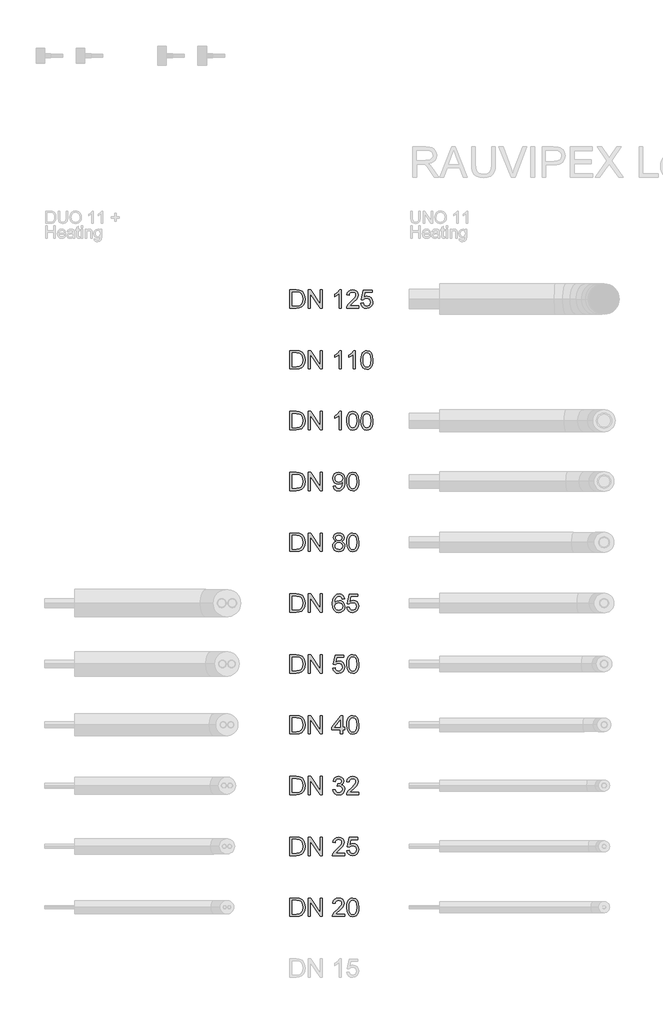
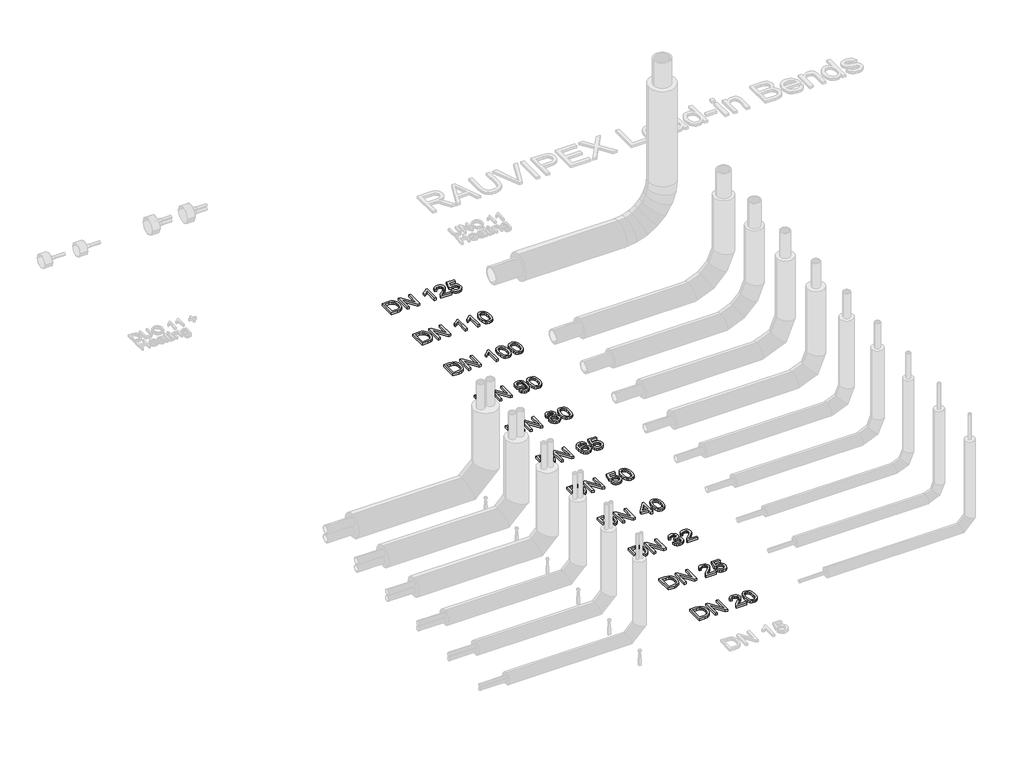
# One storey, part 39 of 44: 11 proxies.
"""IFC4 building model written with IfcOpenShell, lengths in millimetres."""

from ifc_helpers import new_model, si_unit, origin, origin_with_axes, place, context, project, spatial, polyline, outline, extrude, element, save

model = new_model("IFC4")

# Units and contexts
model_context = context("Model", 3, world=origin())
ifc_project = project(units=[si_unit("LENGTHUNIT", "METRE", prefix="MILLI")], contexts=[model_context])

# Site, building, storey
site = spatial("IfcSite", under=ifc_project)
building = spatial("IfcBuilding", under=site)
storey = spatial("IfcBuildingStorey", under=building, Name="REHAU Starting view", Elevation=0.0)

# Proxies
placement = place(None, origin())
element("IfcBuildingElementProxy", 1, Name="150", ObjectType="150", at=placement, inside=storey, context=model_context, shape_type="SweptSolid", body=[
    extrude(outline(polyline([(33016.4811134, 425.0), (33016.4811134, 575.6844652), (33068.4628393, 575.6844652), (33095.3550131, 573.5139615), (33117.5015093, 562.735019), (33127.9217668, 551.2571007), (33135.343786, 536.9832793), (33139.7859611, 520.1894663), (33141.2666861, 501.151573), (33137.2567724, 470.7461261), (33126.9560765, 448.8019651), (33113.1972899, 435.135149), (33095.1894663, 427.575174), (33070.9644369, 425.0), (33016.4811134, 425.0)]), holes=[polyline([(33035.3166715, 443.8355582), (33068.6467803, 443.8355582), (33092.8902038, 446.5578849), (33106.8697196, 454.2466186), (33118.3292437, 472.9534181), (33122.431128, 501.4458786), (33120.4215726, 521.9736939), (33114.3929064, 537.1304321), (33105.4855636, 547.5414926), (33094.8399784, 553.8322747), (33068.1317455, 556.8489071), (33035.3166715, 556.8489071), (33035.3166715, 443.8355582)])]), origin_with_axes(), (0.0, 0.0, 1.0), 20.0),
    extrude(outline(polyline([(33167.1655786, 425.0), (33167.1655786, 575.6844652), (33187.3255119, 575.6844652), (33266.0522589, 456.3067578), (33266.0522589, 575.6844652), (33284.8878171, 575.6844652), (33284.8878171, 425.0), (33264.7278837, 425.0), (33186.0011368, 544.4144956), (33186.0011368, 425.0), (33167.1655786, 425.0)])), origin_with_axes(), (0.0, 0.0, 1.0), 20.0),
    extrude(outline(polyline([(33466.1800643, 443.8355582), (33466.1800643, 425.0), (33367.293384, 425.0), (33369.316735, 437.9862344), (33380.757865, 457.9806209), (33404.3391009, 479.8144173), (33436.8598693, 511.1947515), (33442.9575133, 522.0104821), (33444.9900614, 532.5319072), (33443.0724765, 541.9634818), (33437.3197218, 549.8039669), (33428.4767583, 555.087672), (33417.2885471, 556.8489071), (33405.5393159, 555.1290587), (33396.4112439, 549.9695138), (33390.5205335, 541.7749423), (33388.4833869, 530.9500146), (33369.6478288, 533.3044594), (33374.214164, 551.5238152), (33384.0871971, 564.8319464), (33398.7518931, 572.9713355), (33417.6932173, 575.6844652), (33436.7724973, 572.6678329), (33451.4096022, 563.6179358), (33460.7216152, 550.0982725), (33463.8256195, 533.6723414), (33460.4778934, 515.8116705), (33449.349463, 497.3439944), (33422.3653187, 471.5370724), (33400.6970691, 453.4188841), (33392.1989951, 443.8355582), (33466.1800643, 443.8355582)])), origin_with_axes(), (0.0, 0.0, 1.0), 20.0),
    extrude(outline(polyline([(33485.0156224, 499.128222), (33486.3997784, 523.2474853), (33490.5522465, 542.4831152), (33497.4316398, 557.1294171), (33506.9965717, 567.4806967), (33519.31602, 573.6335231), (33534.4589626, 575.6844652), (33556.4583059, 570.8284229), (33571.6518323, 556.830513), (33580.4810002, 534.5368641), (33583.9023027, 499.128222), (33582.5319423, 475.1469145), (33578.420861, 455.9572699), (33571.5828544, 441.2971724), (33562.0317181, 430.904506), (33549.6846787, 424.7102929), (33534.4589626, 422.6455552), (33514.8876404, 426.2324047), (33500.0252078, 436.992953), (33488.7680188, 462.4779783), (33485.0156224, 499.128222)]), holes=[polyline([(33503.8511806, 499.1650102), (33506.0584726, 469.536714), (33512.6803485, 452.3888145), (33522.5395859, 444.2080387), (33534.4589626, 441.4811134), (33546.3783392, 444.2172357), (33556.2375767, 452.4256027), (33562.8594526, 469.5826993), (33565.0667446, 499.1650102), (33562.933029, 528.1265203), (33556.5318823, 545.407777), (33546.6910389, 553.9886246), (33534.2382334, 556.8489071), (33522.4476155, 554.3289154), (33512.9746541, 546.7689404), (33506.132049, 528.4116288), (33503.8511806, 499.1650102)])]), origin_with_axes(), (0.0, 0.0, 1.0), 20.0),
])
element("IfcBuildingElementProxy", 2, Name="150", ObjectType="150", at=placement, inside=storey, context=model_context, shape_type="SweptSolid", body=[
    extrude(outline(polyline([(33016.4811134, 925.0), (33016.4811134, 1075.6844652), (33068.4628393, 1075.6844652), (33095.3550131, 1073.5139615), (33117.5015093, 1062.735019), (33127.9217668, 1051.2571007), (33135.343786, 1036.9832793), (33139.7859611, 1020.1894663), (33141.2666861, 1001.151573), (33137.2567724, 970.7461261), (33126.9560765, 948.8019651), (33113.1972899, 935.135149), (33095.1894663, 927.575174), (33070.9644369, 925.0), (33016.4811134, 925.0)]), holes=[polyline([(33035.3166715, 943.8355582), (33068.6467803, 943.8355582), (33092.8902038, 946.5578849), (33106.8697196, 954.2466186), (33118.3292437, 972.9534181), (33122.431128, 1001.4458786), (33120.4215726, 1021.9736939), (33114.3929064, 1037.1304321), (33105.4855636, 1047.5414926), (33094.8399784, 1053.8322747), (33068.1317455, 1056.8489071), (33035.3166715, 1056.8489071), (33035.3166715, 943.8355582)])]), origin_with_axes(), (0.0, 0.0, 1.0), 20.0),
    extrude(outline(polyline([(33167.1655786, 925.0), (33167.1655786, 1075.6844652), (33187.3255119, 1075.6844652), (33266.0522589, 956.3067578), (33266.0522589, 1075.6844652), (33284.8878171, 1075.6844652), (33284.8878171, 925.0), (33264.7278837, 925.0), (33186.0011368, 1044.4144956), (33186.0011368, 925.0), (33167.1655786, 925.0)])), origin_with_axes(), (0.0, 0.0, 1.0), 20.0),
    extrude(outline(polyline([(33466.1800643, 943.8355582), (33466.1800643, 925.0), (33367.293384, 925.0), (33369.316735, 937.9862344), (33380.757865, 957.9806209), (33404.3391009, 979.8144173), (33436.8598693, 1011.1947515), (33442.9575133, 1022.0104821), (33444.9900614, 1032.5319072), (33443.0724765, 1041.9634818), (33437.3197218, 1049.8039669), (33428.4767583, 1055.087672), (33417.2885471, 1056.8489071), (33405.5393159, 1055.1290587), (33396.4112439, 1049.9695138), (33390.5205335, 1041.7749423), (33388.4833869, 1030.9500146), (33369.6478288, 1033.3044594), (33374.214164, 1051.5238152), (33384.0871971, 1064.8319464), (33398.7518931, 1072.9713355), (33417.6932173, 1075.6844652), (33436.7724973, 1072.6678329), (33451.4096022, 1063.6179358), (33460.7216152, 1050.0982725), (33463.8256195, 1033.6723414), (33460.4778934, 1015.8116705), (33449.349463, 997.3439944), (33422.3653187, 971.5370724), (33400.6970691, 953.4188841), (33392.1989951, 943.8355582), (33466.1800643, 943.8355582)])), origin_with_axes(), (0.0, 0.0, 1.0), 20.0),
    extrude(outline(polyline([(33485.0156224, 965.0255611), (33503.8511806, 967.3800058), (33507.3092713, 956.072233), (33513.3425361, 947.9742306), (33521.9233836, 943.1043927), (33533.0242228, 941.4811134), (33546.525492, 943.7389891), (33556.6422469, 950.5126164), (33562.9606202, 961.0202459), (33565.0667446, 974.4801284), (33563.0939774, 987.1536631), (33557.1756758, 996.8473537), (33547.2658545, 1003.00018), (33533.3185284, 1005.0511222), (33516.7822327, 1001.7769724), (33506.2056254, 993.2788983), (33487.3700672, 995.6333431), (33503.8511806, 1073.3300205), (33576.8389684, 1073.3300205), (33576.8389684, 1054.4944623), (33519.0814952, 1054.4944623), (33511.0248795, 1012.9973732), (33524.4801635, 1021.1643535), (33538.5792409, 1023.8866803), (33556.1777959, 1020.511363), (33570.7873096, 1010.3854111), (33580.6235545, 994.9527614), (33583.9023027, 975.6573507), (33580.9500497, 956.8217926), (33572.0932907, 940.7085612), (33555.1339307, 927.1613067), (33532.9506464, 922.6455552), (33514.4507806, 925.5472245), (33499.7125081, 934.2522322), (33489.6095489, 947.7489029), (33485.0156224, 965.0255611)])), origin_with_axes(), (0.0, 0.0, 1.0), 20.0),
])
element("IfcBuildingElementProxy", 3, Name="150", ObjectType="150", at=placement, inside=storey, context=model_context, shape_type="SweptSolid", body=[
    extrude(outline(polyline([(33016.4811134, 1425.0), (33016.4811134, 1575.6844652), (33068.4628393, 1575.6844652), (33095.3550131, 1573.5139615), (33117.5015093, 1562.735019), (33127.9217668, 1551.2571007), (33135.343786, 1536.9832793), (33139.7859611, 1520.1894663), (33141.2666861, 1501.151573), (33137.2567724, 1470.7461261), (33126.9560765, 1448.8019651), (33113.1972899, 1435.135149), (33095.1894663, 1427.575174), (33070.9644369, 1425.0), (33016.4811134, 1425.0)]), holes=[polyline([(33035.3166715, 1443.8355582), (33068.6467803, 1443.8355582), (33092.8902038, 1446.5578849), (33106.8697196, 1454.2466186), (33118.3292437, 1472.9534181), (33122.431128, 1501.4458786), (33120.4215726, 1521.9736939), (33114.3929064, 1537.1304321), (33105.4855636, 1547.5414926), (33094.8399784, 1553.8322747), (33068.1317455, 1556.8489071), (33035.3166715, 1556.8489071), (33035.3166715, 1443.8355582)])]), origin_with_axes(), (0.0, 0.0, 1.0), 20.0),
    extrude(outline(polyline([(33167.1655786, 1425.0), (33167.1655786, 1575.6844652), (33187.3255119, 1575.6844652), (33266.0522589, 1456.3067578), (33266.0522589, 1575.6844652), (33284.8878171, 1575.6844652), (33284.8878171, 1425.0), (33264.7278837, 1425.0), (33186.0011368, 1544.4144956), (33186.0011368, 1425.0), (33167.1655786, 1425.0)])), origin_with_axes(), (0.0, 0.0, 1.0), 20.0),
    extrude(outline(polyline([(33369.6478288, 1465.0255611), (33388.4833869, 1467.3800058), (33392.7002343, 1455.5434026), (33398.8760533, 1447.5511663), (33407.3143465, 1442.9986266), (33418.3186167, 1441.4811134), (33431.2312747, 1443.5688437), (33441.2008768, 1449.8320347), (33447.5744324, 1459.1762374), (33449.6989509, 1470.5070028), (33447.5928265, 1481.2629526), (33441.2744532, 1489.9863544), (33431.7095213, 1495.7667003), (33419.8637211, 1497.6934822), (33406.6567575, 1495.6333431), (33408.7536848, 1514.4689012), (33411.7703172, 1514.248172), (33433.1442611, 1519.6560374), (33440.2627777, 1526.5170366), (33442.6356166, 1536.2843035), (33440.9157683, 1544.4190942), (33435.7562233, 1551.0179774), (33427.8835486, 1555.3911747), (33418.0243111, 1556.8489071), (33408.1466795, 1555.3773791), (33400.0716698, 1550.9627951), (33394.1763608, 1543.6051552), (33390.8378317, 1533.3044594), (33372.0022735, 1535.6589041), (33377.5480946, 1552.5722789), (33387.4165291, 1565.1998284), (33400.9177983, 1573.063306), (33417.3621235, 1575.6844652), (33440.0788367, 1570.5157232), (33455.9713389, 1556.3890546), (33461.4711747, 1537.3879495), (33456.2472504, 1520.0239194), (33440.7962066, 1507.5527197), (33452.5868246, 1502.7886479), (33461.324022, 1494.6768499), (33466.7318873, 1483.6587841), (33468.5345091, 1470.175909), (33464.9292655, 1451.8185974), (33454.1135348, 1436.4779182), (33437.7887713, 1426.103646), (33417.6564291, 1422.6455552), (33399.4462704, 1425.5978082), (33384.620626, 1434.4545673), (33374.310733, 1448.0018217), (33369.6478288, 1465.0255611)])), origin_with_axes(), (0.0, 0.0, 1.0), 20.0),
    extrude(outline(polyline([(33581.547858, 1443.8355582), (33581.547858, 1425.0), (33482.6611777, 1425.0), (33484.6845286, 1437.9862344), (33496.1256587, 1457.9806209), (33519.7068946, 1479.8144173), (33552.227663, 1511.1947515), (33558.325307, 1522.0104821), (33560.3578551, 1532.5319072), (33558.4402702, 1541.9634818), (33552.6875155, 1549.8039669), (33543.844552, 1555.087672), (33532.6563408, 1556.8489071), (33520.9071096, 1555.1290587), (33511.7790376, 1549.9695138), (33505.8883271, 1541.7749423), (33503.8511806, 1530.9500146), (33485.0156224, 1533.3044594), (33489.5819577, 1551.5238152), (33499.4549908, 1564.8319464), (33514.1196868, 1572.9713355), (33533.061011, 1575.6844652), (33552.140291, 1572.6678329), (33566.7773959, 1563.6179358), (33576.0894089, 1550.0982725), (33579.1934132, 1533.6723414), (33575.8456871, 1515.8116705), (33564.7172567, 1497.3439944), (33537.7331123, 1471.5370724), (33516.0648628, 1453.4188841), (33507.5667887, 1443.8355582), (33581.547858, 1443.8355582)])), origin_with_axes(), (0.0, 0.0, 1.0), 20.0),
])
element("IfcBuildingElementProxy", 4, Name="150", ObjectType="150", at=placement, inside=storey, context=model_context, shape_type="SweptSolid", body=[
    extrude(outline(polyline([(33016.4811134, 1925.0), (33016.4811134, 2075.6844652), (33068.4628393, 2075.6844652), (33095.3550131, 2073.5139615), (33117.5015093, 2062.735019), (33127.9217668, 2051.2571007), (33135.343786, 2036.9832793), (33139.7859611, 2020.1894663), (33141.2666861, 2001.151573), (33137.2567724, 1970.7461261), (33126.9560765, 1948.8019651), (33113.1972899, 1935.135149), (33095.1894663, 1927.575174), (33070.9644369, 1925.0), (33016.4811134, 1925.0)]), holes=[polyline([(33035.3166715, 1943.8355582), (33068.6467803, 1943.8355582), (33092.8902038, 1946.5578849), (33106.8697196, 1954.2466186), (33118.3292437, 1972.9534181), (33122.431128, 2001.4458786), (33120.4215726, 2021.9736939), (33114.3929064, 2037.1304321), (33105.4855636, 2047.5414926), (33094.8399784, 2053.8322747), (33068.1317455, 2056.8489071), (33035.3166715, 2056.8489071), (33035.3166715, 1943.8355582)])]), origin_with_axes(), (0.0, 0.0, 1.0), 20.0),
    extrude(outline(polyline([(33167.1655786, 1925.0), (33167.1655786, 2075.6844652), (33187.3255119, 2075.6844652), (33266.0522589, 1956.3067578), (33266.0522589, 2075.6844652), (33284.8878171, 2075.6844652), (33284.8878171, 1925.0), (33264.7278837, 1925.0), (33186.0011368, 2044.4144956), (33186.0011368, 1925.0), (33167.1655786, 1925.0)])), origin_with_axes(), (0.0, 0.0, 1.0), 20.0),
    extrude(outline(polyline([(33430.8633928, 1925.0), (33430.8633928, 1960.3166715), (33362.5844944, 1960.3166715), (33362.5844944, 1979.1522297), (33435.5722823, 2073.3300205), (33449.6989509, 2073.3300205), (33449.6989509, 1979.1522297), (33468.5345091, 1979.1522297), (33468.5345091, 1960.3166715), (33449.6989509, 1960.3166715), (33449.6989509, 1925.0), (33430.8633928, 1925.0)]), holes=[polyline([(33430.8633928, 1979.1522297), (33430.8633928, 2037.3511613), (33385.7610601, 1979.1522297), (33430.8633928, 1979.1522297)])]), origin_with_axes(), (0.0, 0.0, 1.0), 20.0),
    extrude(outline(polyline([(33485.0156224, 1999.128222), (33486.3997784, 2023.2474853), (33490.5522465, 2042.4831152), (33497.4316398, 2057.1294171), (33506.9965717, 2067.4806967), (33519.31602, 2073.6335231), (33534.4589626, 2075.6844652), (33556.4583059, 2070.8284229), (33571.6518323, 2056.830513), (33580.4810002, 2034.5368641), (33583.9023027, 1999.128222), (33582.5319423, 1975.1469145), (33578.420861, 1955.9572699), (33571.5828544, 1941.2971724), (33562.0317181, 1930.904506), (33549.6846787, 1924.7102929), (33534.4589626, 1922.6455552), (33514.8876404, 1926.2324047), (33500.0252078, 1936.992953), (33488.7680188, 1962.4779783), (33485.0156224, 1999.128222)]), holes=[polyline([(33503.8511806, 1999.1650102), (33506.0584726, 1969.536714), (33512.6803485, 1952.3888145), (33522.5395859, 1944.2080387), (33534.4589626, 1941.4811134), (33546.3783392, 1944.2172357), (33556.2375767, 1952.4256027), (33562.8594526, 1969.5826993), (33565.0667446, 1999.1650102), (33562.933029, 2028.1265203), (33556.5318823, 2045.407777), (33546.6910389, 2053.9886246), (33534.2382334, 2056.8489071), (33522.4476155, 2054.3289154), (33512.9746541, 2046.7689404), (33506.132049, 2028.4116288), (33503.8511806, 1999.1650102)])]), origin_with_axes(), (0.0, 0.0, 1.0), 20.0),
])
element("IfcBuildingElementProxy", 5, Name="150", ObjectType="150", at=placement, inside=storey, context=model_context, shape_type="SweptSolid", body=[
    extrude(outline(polyline([(33016.4811134, 2425.0), (33016.4811134, 2575.6844652), (33068.4628393, 2575.6844652), (33095.3550131, 2573.5139615), (33117.5015093, 2562.735019), (33127.9217668, 2551.2571007), (33135.343786, 2536.9832793), (33139.7859611, 2520.1894663), (33141.2666861, 2501.151573), (33137.2567724, 2470.7461261), (33126.9560765, 2448.8019651), (33113.1972899, 2435.135149), (33095.1894663, 2427.575174), (33070.9644369, 2425.0), (33016.4811134, 2425.0)]), holes=[polyline([(33035.3166715, 2443.8355582), (33068.6467803, 2443.8355582), (33092.8902038, 2446.5578849), (33106.8697196, 2454.2466186), (33118.3292437, 2472.9534181), (33122.431128, 2501.4458786), (33120.4215726, 2521.9736939), (33114.3929064, 2537.1304321), (33105.4855636, 2547.5414926), (33094.8399784, 2553.8322747), (33068.1317455, 2556.8489071), (33035.3166715, 2556.8489071), (33035.3166715, 2443.8355582)])]), origin_with_axes(), (0.0, 0.0, 1.0), 20.0),
    extrude(outline(polyline([(33167.1655786, 2425.0), (33167.1655786, 2575.6844652), (33187.3255119, 2575.6844652), (33266.0522589, 2456.3067578), (33266.0522589, 2575.6844652), (33284.8878171, 2575.6844652), (33284.8878171, 2425.0), (33264.7278837, 2425.0), (33186.0011368, 2544.4144956), (33186.0011368, 2425.0), (33167.1655786, 2425.0)])), origin_with_axes(), (0.0, 0.0, 1.0), 20.0),
    extrude(outline(polyline([(33369.6478288, 2465.0255611), (33388.4833869, 2467.3800058), (33391.9414777, 2456.072233), (33397.9747424, 2447.9742306), (33406.5555899, 2443.1043927), (33417.6564291, 2441.4811134), (33431.1576983, 2443.7389891), (33441.2744532, 2450.5126164), (33447.5928265, 2461.0202459), (33449.6989509, 2474.4801284), (33447.7261837, 2487.1536631), (33441.8078821, 2496.8473537), (33431.8980609, 2503.00018), (33417.9507347, 2505.0511222), (33401.414439, 2501.7769724), (33390.8378317, 2493.2788983), (33372.0022735, 2495.6333431), (33388.4833869, 2573.3300205), (33461.4711747, 2573.3300205), (33461.4711747, 2554.4944623), (33403.7137015, 2554.4944623), (33395.6570858, 2512.9973732), (33409.1123698, 2521.1643535), (33423.2114473, 2523.8866803), (33440.8100022, 2520.511363), (33455.4195159, 2510.3854111), (33465.2557608, 2494.9527614), (33468.5345091, 2475.6573507), (33465.582256, 2456.8217926), (33456.725497, 2440.7085612), (33439.766137, 2427.1613067), (33417.5828527, 2422.6455552), (33399.0829869, 2425.5472245), (33384.3447145, 2434.2522322), (33374.2417552, 2447.7489029), (33369.6478288, 2465.0255611)])), origin_with_axes(), (0.0, 0.0, 1.0), 20.0),
    extrude(outline(polyline([(33485.0156224, 2499.128222), (33486.3997784, 2523.2474853), (33490.5522465, 2542.4831152), (33497.4316398, 2557.1294171), (33506.9965717, 2567.4806967), (33519.31602, 2573.6335231), (33534.4589626, 2575.6844652), (33556.4583059, 2570.8284229), (33571.6518323, 2556.830513), (33580.4810002, 2534.5368641), (33583.9023027, 2499.128222), (33582.5319423, 2475.1469145), (33578.420861, 2455.9572699), (33571.5828544, 2441.2971724), (33562.0317181, 2430.904506), (33549.6846787, 2424.7102929), (33534.4589626, 2422.6455552), (33514.8876404, 2426.2324047), (33500.0252078, 2436.992953), (33488.7680188, 2462.4779783), (33485.0156224, 2499.128222)]), holes=[polyline([(33503.8511806, 2499.1650102), (33506.0584726, 2469.536714), (33512.6803485, 2452.3888145), (33522.5395859, 2444.2080387), (33534.4589626, 2441.4811134), (33546.3783392, 2444.2172357), (33556.2375767, 2452.4256027), (33562.8594526, 2469.5826993), (33565.0667446, 2499.1650102), (33562.933029, 2528.1265203), (33556.5318823, 2545.407777), (33546.6910389, 2553.9886246), (33534.2382334, 2556.8489071), (33522.4476155, 2554.3289154), (33512.9746541, 2546.7689404), (33506.132049, 2528.4116288), (33503.8511806, 2499.1650102)])]), origin_with_axes(), (0.0, 0.0, 1.0), 20.0),
])
element("IfcBuildingElementProxy", 6, Name="150", ObjectType="150", at=placement, inside=storey, context=model_context, shape_type="SweptSolid", body=[
    extrude(outline(polyline([(33016.4811134, 2925.0), (33016.4811134, 3075.6844652), (33068.4628393, 3075.6844652), (33095.3550131, 3073.5139615), (33117.5015093, 3062.735019), (33127.9217668, 3051.2571007), (33135.343786, 3036.9832793), (33139.7859611, 3020.1894663), (33141.2666861, 3001.151573), (33137.2567724, 2970.7461261), (33126.9560765, 2948.8019651), (33113.1972899, 2935.135149), (33095.1894663, 2927.575174), (33070.9644369, 2925.0), (33016.4811134, 2925.0)]), holes=[polyline([(33035.3166715, 2943.8355582), (33068.6467803, 2943.8355582), (33092.8902038, 2946.5578849), (33106.8697196, 2954.2466186), (33118.3292437, 2972.9534181), (33122.431128, 3001.4458786), (33120.4215726, 3021.9736939), (33114.3929064, 3037.1304321), (33105.4855636, 3047.5414926), (33094.8399784, 3053.8322747), (33068.1317455, 3056.8489071), (33035.3166715, 3056.8489071), (33035.3166715, 2943.8355582)])]), origin_with_axes(), (0.0, 0.0, 1.0), 20.0),
    extrude(outline(polyline([(33167.1655786, 2925.0), (33167.1655786, 3075.6844652), (33187.3255119, 3075.6844652), (33266.0522589, 2956.3067578), (33266.0522589, 3075.6844652), (33284.8878171, 3075.6844652), (33284.8878171, 2925.0), (33264.7278837, 2925.0), (33186.0011368, 3044.4144956), (33186.0011368, 2925.0), (33167.1655786, 2925.0)])), origin_with_axes(), (0.0, 0.0, 1.0), 20.0),
    extrude(outline(polyline([(33466.1800643, 3035.6589041), (33447.3445061, 3033.3044594), (33440.2075954, 3049.0130206), (33431.6635361, 3054.8899354), (33421.3352491, 3056.8489071), (33404.3391009, 3052.2871703), (33391.4816252, 3035.1622635), (33387.5774775, 3021.1321639), (33386.1289421, 3001.5930314), (33402.7388142, 3016.6210109), (33423.3218118, 3021.5322355), (33440.7226302, 3018.1753123), (33455.3275454, 3008.1045427), (33465.2327682, 2992.7178783), (33468.5345091, 2973.4132706), (33466.9802076, 2959.9257969), (33462.3173033, 2947.4224076), (33454.9320723, 2936.8182091), (33445.2107906, 2929.0283078), (33433.5949166, 2924.2412434), (33420.5259087, 2922.6455552), (33399.1565633, 2926.8761982), (33382.1374225, 2939.568127), (33371.0043936, 2961.9721405), (33367.293384, 2995.3390375), (33371.4136623, 3032.8538039), (33383.7744974, 3058.504376), (33400.6510839, 3071.3894429), (33422.5124715, 3075.6844652), (33439.0395701, 3073.0265178), (33452.2741249, 3065.0526756), (33461.5447511, 3052.3883379), (33466.1800643, 3035.6589041)]), holes=[polyline([(33386.1289421, 2973.7075762), (33390.4883438, 2957.3920097), (33402.0766266, 2945.5462094), (33419.0543807, 2941.4811134), (33431.4841936, 2943.5872378), (33441.2560591, 2949.9056111), (33447.588228, 2959.8384249), (33449.6989509, 2972.7878712), (33447.6158191, 2985.2176841), (33441.3664237, 2994.695244), (33431.4290113, 3000.696319), (33418.2818285, 3002.6966774), (33405.8704097, 3000.696319), (33395.4915389, 2994.695244), (33388.4695913, 2985.4476103), (33386.1289421, 2973.7075762)])]), origin_with_axes(), (0.0, 0.0, 1.0), 20.0),
    extrude(outline(polyline([(33485.0156224, 2965.0255611), (33503.8511806, 2967.3800058), (33507.3092713, 2956.072233), (33513.3425361, 2947.9742306), (33521.9233836, 2943.1043927), (33533.0242228, 2941.4811134), (33546.525492, 2943.7389891), (33556.6422469, 2950.5126164), (33562.9606202, 2961.0202459), (33565.0667446, 2974.4801284), (33563.0939774, 2987.1536631), (33557.1756758, 2996.8473537), (33547.2658545, 3003.00018), (33533.3185284, 3005.0511222), (33516.7822327, 3001.7769724), (33506.2056254, 2993.2788983), (33487.3700672, 2995.6333431), (33503.8511806, 3073.3300205), (33576.8389684, 3073.3300205), (33576.8389684, 3054.4944623), (33519.0814952, 3054.4944623), (33511.0248795, 3012.9973732), (33524.4801635, 3021.1643535), (33538.5792409, 3023.8866803), (33556.1777959, 3020.511363), (33570.7873096, 3010.3854111), (33580.6235545, 2994.9527614), (33583.9023027, 2975.6573507), (33580.9500497, 2956.8217926), (33572.0932907, 2940.7085612), (33555.1339307, 2927.1613067), (33532.9506464, 2922.6455552), (33514.4507806, 2925.5472245), (33499.7125081, 2934.2522322), (33489.6095489, 2947.7489029), (33485.0156224, 2965.0255611)])), origin_with_axes(), (0.0, 0.0, 1.0), 20.0),
])
element("IfcBuildingElementProxy", 7, Name="150", ObjectType="150", at=placement, inside=storey, context=model_context, shape_type="SweptSolid", body=[
    extrude(outline(polyline([(33016.4811134, 3425.0), (33016.4811134, 3575.6844652), (33068.4628393, 3575.6844652), (33095.3550131, 3573.5139615), (33117.5015093, 3562.735019), (33127.9217668, 3551.2571007), (33135.343786, 3536.9832793), (33139.7859611, 3520.1894663), (33141.2666861, 3501.151573), (33137.2567724, 3470.7461261), (33126.9560765, 3448.8019651), (33113.1972899, 3435.135149), (33095.1894663, 3427.575174), (33070.9644369, 3425.0), (33016.4811134, 3425.0)]), holes=[polyline([(33035.3166715, 3443.8355582), (33068.6467803, 3443.8355582), (33092.8902038, 3446.5578849), (33106.8697196, 3454.2466186), (33118.3292437, 3472.9534181), (33122.431128, 3501.4458786), (33120.4215726, 3521.9736939), (33114.3929064, 3537.1304321), (33105.4855636, 3547.5414926), (33094.8399784, 3553.8322747), (33068.1317455, 3556.8489071), (33035.3166715, 3556.8489071), (33035.3166715, 3443.8355582)])]), origin_with_axes(), (0.0, 0.0, 1.0), 20.0),
    extrude(outline(polyline([(33167.1655786, 3425.0), (33167.1655786, 3575.6844652), (33187.3255119, 3575.6844652), (33266.0522589, 3456.3067578), (33266.0522589, 3575.6844652), (33284.8878171, 3575.6844652), (33284.8878171, 3425.0), (33264.7278837, 3425.0), (33186.0011368, 3544.4144956), (33186.0011368, 3425.0), (33167.1655786, 3425.0)])), origin_with_axes(), (0.0, 0.0, 1.0), 20.0),
    extrude(outline(polyline([(33397.0918256, 3507.9941781), (33379.9301305, 3519.6928256), (33374.3567183, 3537.9029843), (33377.3917448, 3552.6274612), (33386.4968241, 3564.7951582), (33400.6510839, 3572.9621385), (33418.8336515, 3575.6844652), (33437.1265837, 3572.8977591), (33451.4647845, 3564.5376408), (33460.7354108, 3552.1768057), (33463.8256195, 3537.3879495), (33458.3257837, 3519.6376433), (33441.6423352, 3507.9941781), (33453.2352166, 3502.0206942), (33461.6735098, 3493.223716), (33466.8192593, 3482.0263078), (33468.5345091, 3468.8515338), (33465.1316006, 3450.8437102), (33454.9228752, 3435.9628835), (33439.1591317, 3425.9748873), (33419.0911689, 3422.6455552), (33399.0232061, 3425.9886829), (33383.2594626, 3436.0180658), (33373.0507372, 3451.0414467), (33369.6478288, 3469.3665686), (33371.4320564, 3483.0517788), (33376.7847395, 3494.3089679), (33385.4299663, 3502.7518597), (33397.0918256, 3507.9941781)]), holes=[polyline([(33393.1922764, 3537.3511613), (33394.861541, 3529.1289987), (33399.8693347, 3522.5623051), (33408.0685046, 3518.2580858), (33419.3118981, 3516.823346), (33430.2931757, 3518.2488887), (33438.3681855, 3522.5255169), (33443.3345924, 3528.8714813), (33444.9900614, 3536.5050327), (33443.2794101, 3544.4282912), (33438.1474563, 3550.9811892), (33429.9620819, 3555.3819776), (33419.0911689, 3556.8489071), (33408.1512781, 3555.4141673), (33399.9796993, 3551.1099479), (33394.8891321, 3544.8007717), (33393.1922764, 3537.3511613)]), polyline([(33388.4833869, 3470.0287562), (33391.628778, 3455.8469053), (33402.7572083, 3445.2335097), (33419.2383217, 3441.4811134), (33432.0590092, 3443.4538806), (33441.6791234, 3449.3721822), (33447.693994, 3458.3347073), (33449.6989509, 3469.440145), (33447.6296147, 3480.7341223), (33441.421606, 3489.8943839), (33431.5807626, 3495.9644369), (33418.6129223, 3497.9877878), (33405.9715773, 3495.992028), (33396.4480321, 3490.0047485), (33390.4745482, 3481.0192308), (33388.4833869, 3470.0287562)])]), origin_with_axes(), (0.0, 0.0, 1.0), 20.0),
    extrude(outline(polyline([(33485.0156224, 3499.128222), (33486.3997784, 3523.2474853), (33490.5522465, 3542.4831152), (33497.4316398, 3557.1294171), (33506.9965717, 3567.4806967), (33519.31602, 3573.6335231), (33534.4589626, 3575.6844652), (33556.4583059, 3570.8284229), (33571.6518323, 3556.830513), (33580.4810002, 3534.5368641), (33583.9023027, 3499.128222), (33582.5319423, 3475.1469145), (33578.420861, 3455.9572699), (33571.5828544, 3441.2971724), (33562.0317181, 3430.904506), (33549.6846787, 3424.7102929), (33534.4589626, 3422.6455552), (33514.8876404, 3426.2324047), (33500.0252078, 3436.992953), (33488.7680188, 3462.4779783), (33485.0156224, 3499.128222)]), holes=[polyline([(33503.8511806, 3499.1650102), (33506.0584726, 3469.536714), (33512.6803485, 3452.3888145), (33522.5395859, 3444.2080387), (33534.4589626, 3441.4811134), (33546.3783392, 3444.2172357), (33556.2375767, 3452.4256027), (33562.8594526, 3469.5826993), (33565.0667446, 3499.1650102), (33562.933029, 3528.1265203), (33556.5318823, 3545.407777), (33546.6910389, 3553.9886246), (33534.2382334, 3556.8489071), (33522.4476155, 3554.3289154), (33512.9746541, 3546.7689404), (33506.132049, 3528.4116288), (33503.8511806, 3499.1650102)])]), origin_with_axes(), (0.0, 0.0, 1.0), 20.0),
])
element("IfcBuildingElementProxy", 8, Name="150", ObjectType="150", at=placement, inside=storey, context=model_context, shape_type="SweptSolid", body=[
    extrude(outline(polyline([(33016.4811134, 3925.0), (33016.4811134, 4075.6844652), (33068.4628393, 4075.6844652), (33095.3550131, 4073.5139615), (33117.5015093, 4062.735019), (33127.9217668, 4051.2571007), (33135.343786, 4036.9832793), (33139.7859611, 4020.1894663), (33141.2666861, 4001.151573), (33137.2567724, 3970.7461261), (33126.9560765, 3948.8019651), (33113.1972899, 3935.135149), (33095.1894663, 3927.575174), (33070.9644369, 3925.0), (33016.4811134, 3925.0)]), holes=[polyline([(33035.3166715, 3943.8355582), (33068.6467803, 3943.8355582), (33092.8902038, 3946.5578849), (33106.8697196, 3954.2466186), (33118.3292437, 3972.9534181), (33122.431128, 4001.4458786), (33120.4215726, 4021.9736939), (33114.3929064, 4037.1304321), (33105.4855636, 4047.5414926), (33094.8399784, 4053.8322747), (33068.1317455, 4056.8489071), (33035.3166715, 4056.8489071), (33035.3166715, 3943.8355582)])]), origin_with_axes(), (0.0, 0.0, 1.0), 20.0),
    extrude(outline(polyline([(33167.1655786, 3925.0), (33167.1655786, 4075.6844652), (33187.3255119, 4075.6844652), (33266.0522589, 3956.3067578), (33266.0522589, 4075.6844652), (33284.8878171, 4075.6844652), (33284.8878171, 3925.0), (33264.7278837, 3925.0), (33186.0011368, 4044.4144956), (33186.0011368, 3925.0), (33167.1655786, 3925.0)])), origin_with_axes(), (0.0, 0.0, 1.0), 20.0),
    extrude(outline(polyline([(33372.0022735, 3962.6711163), (33390.8378317, 3965.0255611), (33394.0567991, 3954.3339906), (33399.2991176, 3947.0545256), (33406.4360283, 3942.8744664), (33415.3387726, 3941.4811134), (33430.5874813, 3945.0679628), (33440.9249653, 3954.6512888), (33447.0869887, 3971.0220376), (33449.8093155, 3992.8742281), (33449.6989509, 3996.5530481), (33434.6341832, 3982.2792266), (33413.9776092, 3976.7977849), (33396.8021185, 3980.1455111), (33382.5053045, 3990.1886895), (33372.8621977, 4005.7041127), (33369.6478288, 4025.4685729), (33373.0185475, 4045.8860236), (33383.1307039, 4061.8888904), (33398.3196318, 4072.2355715), (33416.9206651, 4075.6844652), (33430.9691588, 4073.7162966), (33443.7576567, 4067.8117905), (33454.4538257, 4058.2652528), (33462.2253328, 4045.3709888), (33466.957215, 4027.5471062), (33468.5345091, 4003.2117122), (33466.9618135, 3977.4093887), (33462.2437269, 3957.4655861), (33454.421636, 3942.4789933), (33443.5369275, 3931.5482995), (33430.0586509, 3924.8712413), (33414.4558558, 3922.6455552), (33398.3518214, 3925.271313), (33385.5035427, 3933.1485862), (33376.518025, 3945.7807342), (33372.0022735, 3962.6711163)]), holes=[polyline([(33449.6989509, 4025.9100313), (33447.6664029, 4038.6755365), (33441.5687588, 4048.4979858), (33432.1049945, 4054.7611767), (33419.9740857, 4056.8489071), (33407.3925215, 4054.6002284), (33397.3125548, 4047.8541923), (33390.6906789, 4037.5305038), (33388.4833869, 4024.5488679), (33390.5711172, 4012.9100013), (33396.8343082, 4003.6715647), (33406.6659545, 3997.6428985), (33419.4590509, 3995.6333431), (33431.4933907, 3997.6428985), (33441.1824827, 4003.6715647), (33447.5698339, 4013.2502921), (33449.6989509, 4025.9100313)])]), origin_with_axes(), (0.0, 0.0, 1.0), 20.0),
    extrude(outline(polyline([(33485.0156224, 3999.128222), (33486.3997784, 4023.2474853), (33490.5522465, 4042.4831152), (33497.4316398, 4057.1294171), (33506.9965717, 4067.4806967), (33519.31602, 4073.6335231), (33534.4589626, 4075.6844652), (33556.4583059, 4070.8284229), (33571.6518323, 4056.830513), (33580.4810002, 4034.5368641), (33583.9023027, 3999.128222), (33582.5319423, 3975.1469145), (33578.420861, 3955.9572699), (33571.5828544, 3941.2971724), (33562.0317181, 3930.904506), (33549.6846787, 3924.7102929), (33534.4589626, 3922.6455552), (33514.8876404, 3926.2324047), (33500.0252078, 3936.992953), (33488.7680188, 3962.4779783), (33485.0156224, 3999.128222)]), holes=[polyline([(33503.8511806, 3999.1650102), (33506.0584726, 3969.536714), (33512.6803485, 3952.3888145), (33522.5395859, 3944.2080387), (33534.4589626, 3941.4811134), (33546.3783392, 3944.2172357), (33556.2375767, 3952.4256027), (33562.8594526, 3969.5826993), (33565.0667446, 3999.1650102), (33562.933029, 4028.1265203), (33556.5318823, 4045.407777), (33546.6910389, 4053.9886246), (33534.2382334, 4056.8489071), (33522.4476155, 4054.3289154), (33512.9746541, 4046.7689404), (33506.132049, 4028.4116288), (33503.8511806, 3999.1650102)])]), origin_with_axes(), (0.0, 0.0, 1.0), 20.0),
])
element("IfcBuildingElementProxy", 9, Name="150", ObjectType="150", at=placement, inside=storey, context=model_context, shape_type="SweptSolid", body=[
    extrude(outline(polyline([(33016.4811134, 4425.0), (33016.4811134, 4575.6844652), (33068.4628393, 4575.6844652), (33095.3550131, 4573.5139615), (33117.5015093, 4562.735019), (33127.9217668, 4551.2571007), (33135.343786, 4536.9832793), (33139.7859611, 4520.1894663), (33141.2666861, 4501.151573), (33137.2567724, 4470.7461261), (33126.9560765, 4448.8019651), (33113.1972899, 4435.135149), (33095.1894663, 4427.575174), (33070.9644369, 4425.0), (33016.4811134, 4425.0)]), holes=[polyline([(33035.3166715, 4443.8355582), (33068.6467803, 4443.8355582), (33092.8902038, 4446.5578849), (33106.8697196, 4454.2466186), (33118.3292437, 4472.9534181), (33122.431128, 4501.4458786), (33120.4215726, 4521.9736939), (33114.3929064, 4537.1304321), (33105.4855636, 4547.5414926), (33094.8399784, 4553.8322747), (33068.1317455, 4556.8489071), (33035.3166715, 4556.8489071), (33035.3166715, 4443.8355582)])]), origin_with_axes(), (0.0, 0.0, 1.0), 20.0),
    extrude(outline(polyline([(33167.1655786, 4425.0), (33167.1655786, 4575.6844652), (33187.3255119, 4575.6844652), (33266.0522589, 4456.3067578), (33266.0522589, 4575.6844652), (33284.8878171, 4575.6844652), (33284.8878171, 4425.0), (33264.7278837, 4425.0), (33186.0011368, 4544.4144956), (33186.0011368, 4425.0), (33167.1655786, 4425.0)])), origin_with_axes(), (0.0, 0.0, 1.0), 20.0),
    extrude(outline(polyline([(33440.2811718, 4425.0), (33421.4456137, 4425.0), (33421.4456137, 4542.4279329), (33403.6033369, 4529.7176099), (33383.7744974, 4520.2078604), (33383.7744974, 4538.0133489), (33411.3840411, 4555.6348965), (33428.141066, 4575.6844652), (33440.2811718, 4575.6844652), (33440.2811718, 4425.0)])), origin_with_axes(), (0.0, 0.0, 1.0), 20.0),
    extrude(outline(polyline([(33485.0156224, 4499.128222), (33486.3997784, 4523.2474853), (33490.5522465, 4542.4831152), (33497.4316398, 4557.1294171), (33506.9965717, 4567.4806967), (33519.31602, 4573.6335231), (33534.4589626, 4575.6844652), (33556.4583059, 4570.8284229), (33571.6518323, 4556.830513), (33580.4810002, 4534.5368641), (33583.9023027, 4499.128222), (33582.5319423, 4475.1469145), (33578.420861, 4455.9572699), (33571.5828544, 4441.2971724), (33562.0317181, 4430.904506), (33549.6846787, 4424.7102929), (33534.4589626, 4422.6455552), (33514.8876404, 4426.2324047), (33500.0252078, 4436.992953), (33488.7680188, 4462.4779783), (33485.0156224, 4499.128222)]), holes=[polyline([(33503.8511806, 4499.1650102), (33506.0584726, 4469.536714), (33512.6803485, 4452.3888145), (33522.5395859, 4444.2080387), (33534.4589626, 4441.4811134), (33546.3783392, 4444.2172357), (33556.2375767, 4452.4256027), (33562.8594526, 4469.5826993), (33565.0667446, 4499.1650102), (33562.933029, 4528.1265203), (33556.5318823, 4545.407777), (33546.6910389, 4553.9886246), (33534.2382334, 4556.8489071), (33522.4476155, 4554.3289154), (33512.9746541, 4546.7689404), (33506.132049, 4528.4116288), (33503.8511806, 4499.1650102)])]), origin_with_axes(), (0.0, 0.0, 1.0), 20.0),
    extrude(outline(polyline([(33600.3834161, 4499.128222), (33601.7675721, 4523.2474853), (33605.9200402, 4542.4831152), (33612.7994335, 4557.1294171), (33622.3643653, 4567.4806967), (33634.6838137, 4573.6335231), (33649.8267563, 4575.6844652), (33671.8260996, 4570.8284229), (33687.019626, 4556.830513), (33695.8487939, 4534.5368641), (33699.2700964, 4499.128222), (33697.899736, 4475.1469145), (33693.7886547, 4455.9572699), (33686.9506481, 4441.2971724), (33677.3995118, 4430.904506), (33665.0524724, 4424.7102929), (33649.8267563, 4422.6455552), (33630.2554341, 4426.2324047), (33615.3930015, 4436.992953), (33604.1358125, 4462.4779783), (33600.3834161, 4499.128222)]), holes=[polyline([(33619.2189743, 4499.1650102), (33621.4262663, 4469.536714), (33628.0481422, 4452.3888145), (33637.9073796, 4444.2080387), (33649.8267563, 4441.4811134), (33661.7461329, 4444.2172357), (33671.6053704, 4452.4256027), (33678.2272463, 4469.5826993), (33680.4345383, 4499.1650102), (33678.3008227, 4528.1265203), (33671.899676, 4545.407777), (33662.0588326, 4553.9886246), (33649.6060271, 4556.8489071), (33637.8154091, 4554.3289154), (33628.3424478, 4546.7689404), (33621.4998427, 4528.4116288), (33619.2189743, 4499.1650102)])]), origin_with_axes(), (0.0, 0.0, 1.0), 20.0),
])
element("IfcBuildingElementProxy", 10, Name="150", ObjectType="150", at=placement, inside=storey, context=model_context, shape_type="SweptSolid", body=[
    extrude(outline(polyline([(33016.4811134, 4925.0), (33016.4811134, 5075.6844652), (33068.4628393, 5075.6844652), (33095.3550131, 5073.5139615), (33117.5015093, 5062.735019), (33127.9217668, 5051.2571007), (33135.343786, 5036.9832793), (33139.7859611, 5020.1894663), (33141.2666861, 5001.151573), (33137.2567724, 4970.7461261), (33126.9560765, 4948.8019651), (33113.1972899, 4935.135149), (33095.1894663, 4927.575174), (33070.9644369, 4925.0), (33016.4811134, 4925.0)]), holes=[polyline([(33035.3166715, 4943.8355582), (33068.6467803, 4943.8355582), (33092.8902038, 4946.5578849), (33106.8697196, 4954.2466186), (33118.3292437, 4972.9534181), (33122.431128, 5001.4458786), (33120.4215726, 5021.9736939), (33114.3929064, 5037.1304321), (33105.4855636, 5047.5414926), (33094.8399784, 5053.8322747), (33068.1317455, 5056.8489071), (33035.3166715, 5056.8489071), (33035.3166715, 4943.8355582)])]), origin_with_axes(), (0.0, 0.0, 1.0), 20.0),
    extrude(outline(polyline([(33167.1655786, 4925.0), (33167.1655786, 5075.6844652), (33187.3255119, 5075.6844652), (33266.0522589, 4956.3067578), (33266.0522589, 5075.6844652), (33284.8878171, 5075.6844652), (33284.8878171, 4925.0), (33264.7278837, 4925.0), (33186.0011368, 5044.4144956), (33186.0011368, 4925.0), (33167.1655786, 4925.0)])), origin_with_axes(), (0.0, 0.0, 1.0), 20.0),
    extrude(outline(polyline([(33440.2811718, 4925.0), (33421.4456137, 4925.0), (33421.4456137, 5042.4279329), (33403.6033369, 5029.7176099), (33383.7744974, 5020.2078604), (33383.7744974, 5038.0133489), (33411.3840411, 5055.6348965), (33428.141066, 5075.6844652), (33440.2811718, 5075.6844652), (33440.2811718, 4925.0)])), origin_with_axes(), (0.0, 0.0, 1.0), 20.0),
    extrude(outline(polyline([(33555.6489655, 4925.0), (33536.8134074, 4925.0), (33536.8134074, 5042.4279329), (33518.9711306, 5029.7176099), (33499.1422911, 5020.2078604), (33499.1422911, 5038.0133489), (33526.7518348, 5055.6348965), (33543.5088597, 5075.6844652), (33555.6489655, 5075.6844652), (33555.6489655, 4925.0)])), origin_with_axes(), (0.0, 0.0, 1.0), 20.0),
    extrude(outline(polyline([(33600.3834161, 4999.128222), (33601.7675721, 5023.2474853), (33605.9200402, 5042.4831152), (33612.7994335, 5057.1294171), (33622.3643653, 5067.4806967), (33634.6838137, 5073.6335231), (33649.8267563, 5075.6844652), (33671.8260996, 5070.8284229), (33687.019626, 5056.830513), (33695.8487939, 5034.5368641), (33699.2700964, 4999.128222), (33697.899736, 4975.1469145), (33693.7886547, 4955.9572699), (33686.9506481, 4941.2971724), (33677.3995118, 4930.904506), (33665.0524724, 4924.7102929), (33649.8267563, 4922.6455552), (33630.2554341, 4926.2324047), (33615.3930015, 4936.992953), (33604.1358125, 4962.4779783), (33600.3834161, 4999.128222)]), holes=[polyline([(33619.2189743, 4999.1650102), (33621.4262663, 4969.536714), (33628.0481422, 4952.3888145), (33637.9073796, 4944.2080387), (33649.8267563, 4941.4811134), (33661.7461329, 4944.2172357), (33671.6053704, 4952.4256027), (33678.2272463, 4969.5826993), (33680.4345383, 4999.1650102), (33678.3008227, 5028.1265203), (33671.899676, 5045.407777), (33662.0588326, 5053.9886246), (33649.6060271, 5056.8489071), (33637.8154091, 5054.3289154), (33628.3424478, 5046.7689404), (33621.4998427, 5028.4116288), (33619.2189743, 4999.1650102)])]), origin_with_axes(), (0.0, 0.0, 1.0), 20.0),
])
element("IfcBuildingElementProxy", 11, Name="150", ObjectType="150", at=placement, inside=storey, context=model_context, shape_type="SweptSolid", body=[
    extrude(outline(polyline([(33016.4811134, 5425.0), (33016.4811134, 5575.6844652), (33068.4628393, 5575.6844652), (33095.3550131, 5573.5139615), (33117.5015093, 5562.735019), (33127.9217668, 5551.2571007), (33135.343786, 5536.9832793), (33139.7859611, 5520.1894663), (33141.2666861, 5501.151573), (33137.2567724, 5470.7461261), (33126.9560765, 5448.8019651), (33113.1972899, 5435.135149), (33095.1894663, 5427.575174), (33070.9644369, 5425.0), (33016.4811134, 5425.0)]), holes=[polyline([(33035.3166715, 5443.8355582), (33068.6467803, 5443.8355582), (33092.8902038, 5446.5578849), (33106.8697196, 5454.2466186), (33118.3292437, 5472.9534181), (33122.431128, 5501.4458786), (33120.4215726, 5521.9736939), (33114.3929064, 5537.1304321), (33105.4855636, 5547.5414926), (33094.8399784, 5553.8322747), (33068.1317455, 5556.8489071), (33035.3166715, 5556.8489071), (33035.3166715, 5443.8355582)])]), origin_with_axes(), (0.0, 0.0, 1.0), 20.0),
    extrude(outline(polyline([(33167.1655786, 5425.0), (33167.1655786, 5575.6844652), (33187.3255119, 5575.6844652), (33266.0522589, 5456.3067578), (33266.0522589, 5575.6844652), (33284.8878171, 5575.6844652), (33284.8878171, 5425.0), (33264.7278837, 5425.0), (33186.0011368, 5544.4144956), (33186.0011368, 5425.0), (33167.1655786, 5425.0)])), origin_with_axes(), (0.0, 0.0, 1.0), 20.0),
    extrude(outline(polyline([(33440.2811718, 5425.0), (33421.4456137, 5425.0), (33421.4456137, 5542.4279329), (33403.6033369, 5529.7176099), (33383.7744974, 5520.2078604), (33383.7744974, 5538.0133489), (33411.3840411, 5555.6348965), (33428.141066, 5575.6844652), (33440.2811718, 5575.6844652), (33440.2811718, 5425.0)])), origin_with_axes(), (0.0, 0.0, 1.0), 20.0),
    extrude(outline(polyline([(33581.547858, 5443.8355582), (33581.547858, 5425.0), (33482.6611777, 5425.0), (33484.6845286, 5437.9862344), (33496.1256587, 5457.9806209), (33519.7068946, 5479.8144173), (33552.227663, 5511.1947515), (33558.325307, 5522.0104821), (33560.3578551, 5532.5319072), (33558.4402702, 5541.9634818), (33552.6875155, 5549.8039669), (33543.844552, 5555.087672), (33532.6563408, 5556.8489071), (33520.9071096, 5555.1290587), (33511.7790376, 5549.9695138), (33505.8883271, 5541.7749423), (33503.8511806, 5530.9500146), (33485.0156224, 5533.3044594), (33489.5819577, 5551.5238152), (33499.4549908, 5564.8319464), (33514.1196868, 5572.9713355), (33533.061011, 5575.6844652), (33552.140291, 5572.6678329), (33566.7773959, 5563.6179358), (33576.0894089, 5550.0982725), (33579.1934132, 5533.6723414), (33575.8456871, 5515.8116705), (33564.7172567, 5497.3439944), (33537.7331123, 5471.5370724), (33516.0648628, 5453.4188841), (33507.5667887, 5443.8355582), (33581.547858, 5443.8355582)])), origin_with_axes(), (0.0, 0.0, 1.0), 20.0),
    extrude(outline(polyline([(33600.3834161, 5465.0255611), (33619.2189743, 5467.3800058), (33622.677065, 5456.072233), (33628.7103298, 5447.9742306), (33637.2911773, 5443.1043927), (33648.3920165, 5441.4811134), (33661.8932857, 5443.7389891), (33672.0100406, 5450.5126164), (33678.3284139, 5461.0202459), (33680.4345383, 5474.4801284), (33678.4617711, 5487.1536631), (33672.5434695, 5496.8473537), (33662.6336482, 5503.00018), (33648.6863221, 5505.0511222), (33632.1500264, 5501.7769724), (33621.5734191, 5493.2788983), (33602.7378609, 5495.6333431), (33619.2189743, 5573.3300205), (33692.2067621, 5573.3300205), (33692.2067621, 5554.4944623), (33634.4492889, 5554.4944623), (33626.3926732, 5512.9973732), (33639.8479572, 5521.1643535), (33653.9470346, 5523.8866803), (33671.5455896, 5520.511363), (33686.1551033, 5510.3854111), (33695.9913482, 5494.9527614), (33699.2700964, 5475.6573507), (33696.3178434, 5456.8217926), (33687.4610844, 5440.7085612), (33670.5017244, 5427.1613067), (33648.3184401, 5422.6455552), (33629.8185743, 5425.5472245), (33615.0803018, 5434.2522322), (33604.9773425, 5447.7489029), (33600.3834161, 5465.0255611)])), origin_with_axes(), (0.0, 0.0, 1.0), 20.0),
])

save(model, "model.ifc")
